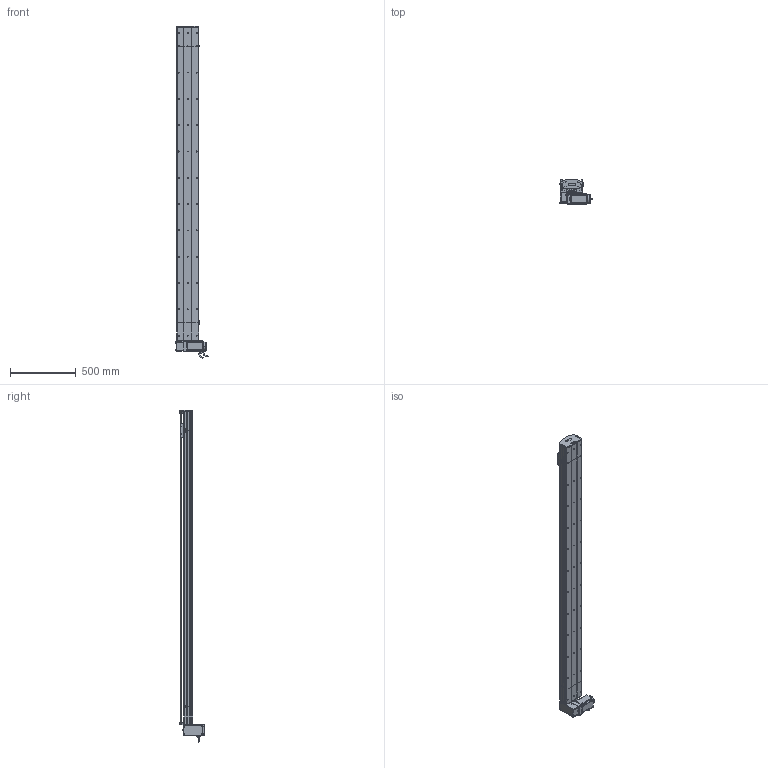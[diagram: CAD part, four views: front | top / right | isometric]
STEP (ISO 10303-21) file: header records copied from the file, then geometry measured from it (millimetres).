
FILE_DESCRIPTION (( 'STEP AP214' ), '1' );
FILE_NAME ('D17 TBN RU S2100.STEP', '2010-06-30T11:28:43', ( 'Christophe Gaillard' ), ( 'SGA' ), 'SwSTEP 2.0', 'SolidWorks 2010', '' );
FILE_SCHEMA (( 'AUTOMOTIVE_DESIGN' ));
Length unit declared in the file: millimetre
Products named in the file (40): corp D17B 2100_Default; couvercle D17B course L2100_Default; cache arbre D17_Default; Renvoi RU_Default; corp tail D17B+100_Default; Tail D17B+100_Default; tete d''axe poulie D17B; plaque de  bout tail D17B_Default; Rail D17B; codeur 90BLDC125-640; corps 90BLDC125A-640; Conecteur_Default; Head RU D17B_Default; D17 TBN RU S2100; Couroie tail D17B_Default; course 2100 D17B_Default; couvercle D17B_Default; Conecteur2_Default; Couroie+ rail D17 Course 2100 ; avant 90BLDC125A-640; poulie tail_Default; vis M5 L5_Default; Arbre+rail head D17B; cache D17_Default; poulie head_Default; couroie head D17_Default; vis M5 L8 90°_Default; plaque de  bout head D17B RU_Default; couvercle D17B head_Default; Moteur motionking 90BLDC125A-640; corpl head D17 _Default; Vis M5 L16-2_Default; Plaque racord D17_Default; vis M5 L16_Default; vis M5 L70_Default; vis M5 L25_Default; chariot D17 TBN; Chariot D17 TBN; guide D17; vis M5 L12_Default
Assembly tree (66 placements, depth 4):
  D17 TBN RU S2100
    course 2100 D17B_Default
      couvercle D17B course L2100_Default
      Couroie+ rail D17 Course 2100 
      corp D17B 2100_Default
    chariot D17 TBN
      Chariot D17 TBN
      guide D17  x2
    Head RU D17B_Default
      vis M5 L12_Default  x8
      vis M5 L16_Default  x2
      couvercle D17B head_Default
      plaque de  bout head D17B RU_Default
      vis M5 L5_Default  x4
      couroie head D17_Default
      Moteur motionking 90BLDC125A-640
        codeur 90BLDC125-640
        corps 90BLDC125A-640
        Conecteur2_Default
        avant 90BLDC125A-640
        Conecteur_Default
      poulie head_Default
      Vis M5 L16-2_Default  x4
      vis M5 L25_Default  x2
      vis M5 L70_Default  x4
      corpl head D17 _Default
      cache D17_Default  x2
      cache arbre D17_Default
      Arbre+rail head D17B
      Renvoi RU_Default
      Plaque racord D17_Default
    Tail D17B+100_Default
      vis M5 L12_Default  x4
      vis M5 L25_Default  x2
      vis M5 L8 90°_Default  x2
      Couroie tail D17B_Default
      corp tail D17B+100_Default
      poulie tail_Default
      tete d''axe poulie D17B
      Rail D17B
      couvercle D17B_Default
      plaque de  bout tail D17B_Default
Bounding box: 245.2 x 188.65 x 2523.95 mm (x, y, z)
Volume: 14693670.1 mm3; surface area: 4245241.3 mm2
Topology: 89 solids, 89 shells, 2607 faces, 6667 edges, 4298 vertices
Faces by surface type: plane 1537, cylinder 773, bspline 136, cone 80, torus 77, sphere 4
Entity records: 84597 total; most frequent: CARTESIAN_POINT 25169, ORIENTED_EDGE 10506, DIRECTION 9918, EDGE_CURVE 5253, VECTOR 3476, LINE 3476, VERTEX_POINT 3442, AXIS2_PLACEMENT_3D 3221
